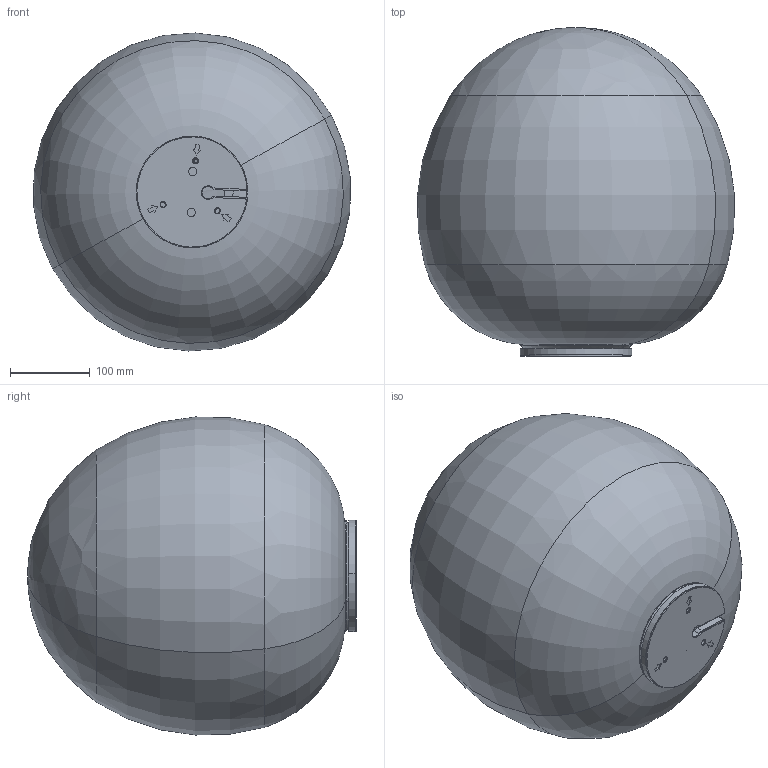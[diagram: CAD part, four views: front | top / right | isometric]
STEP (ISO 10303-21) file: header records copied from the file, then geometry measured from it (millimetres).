
FILE_DESCRIPTION (( 'STEP AP214' ), '1' );
FILE_NAME ('244_XL_T_PL_2D.STEP', '2021-04-29T07:15:06', ( '' ), ( '' ), 'SwSTEP 2.0', 'SolidWorks 2021', '' );
FILE_SCHEMA (( 'AUTOMOTIVE_DESIGN' ));
Length unit declared in the file: millimetre
Products named in the file (1): 244_XL_T_PL_2D
Bounding box: 397.08 x 411.52 x 398.36 mm (x, y, z)
Volume: 2675326.8 mm3; surface area: 1095053.4 mm2
Topology: 4 solids, 4 shells, 1487 faces, 3816 edges, 2338 vertices
Faces by surface type: bspline 716, cylinder 392, plane 246, cone 125, torus 8
Entity records: 107042 total; most frequent: CARTESIAN_POINT 62533, ORIENTED_EDGE 7600, EDGE_CURVE 3800, DIRECTION 2750, B_SPLINE_CURVE_WITH_KNOTS 2690, VERTEX_POINT 2338, EDGE_LOOP 1542, UNCERTAINTY_MEASURE_WITH_UNIT 1493
